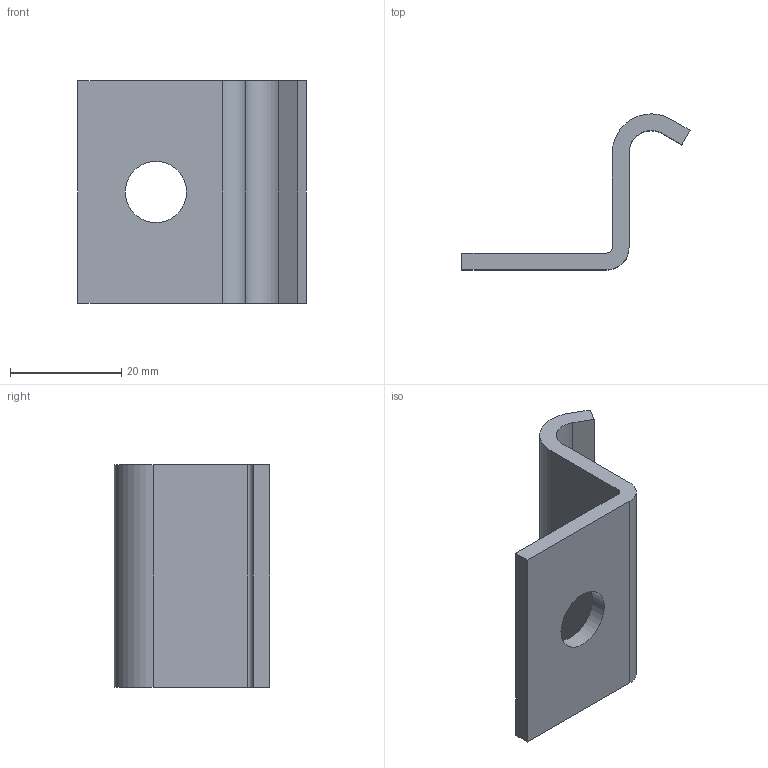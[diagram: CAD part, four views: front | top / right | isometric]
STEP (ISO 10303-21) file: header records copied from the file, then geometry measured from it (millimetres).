
FILE_DESCRIPTION(('Creo Elements/Direct Modeling STEP Export'),'2;1');
FILE_NAME('SLW 10.stp','2018-02-05T11:55:11',(''),(''),'Creo Elements/Direct Modeling STEP processor for AP214 (Solid Model)','Creo Elements/Direct Modeling 19.0G 27-Nov-2017 (C) Parametric Technology GmbH','');
FILE_SCHEMA(('AUTOMOTIVE_DESIGN { 1 0 10303 214 1 1 1 1 }'));
Length unit declared in the file: millimetre
Products named in the file (1): SLW_10
Bounding box: 40.96 x 28 x 40 mm (x, y, z)
Volume: 7208.4 mm3; surface area: 5524 mm2
Topology: 1 solids, 1 shells, 16 faces, 42 edges, 28 vertices
Faces by surface type: plane 10, cylinder 6
Entity records: 514 total; most frequent: CARTESIAN_POINT 85, DIRECTION 84, ORIENTED_EDGE 84, EDGE_CURVE 42, VECTOR 30, LINE 30, VERTEX_POINT 28, AXIS2_PLACEMENT_3D 27
